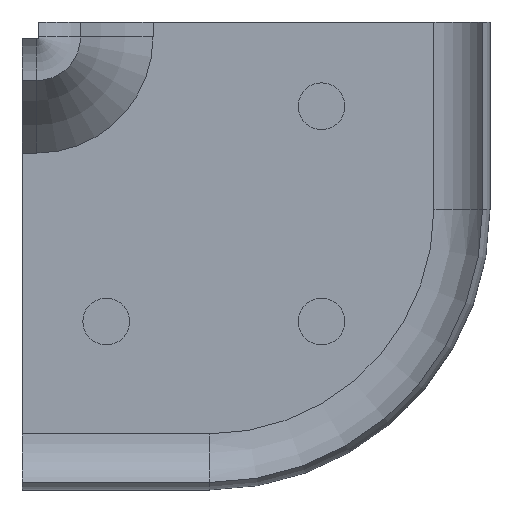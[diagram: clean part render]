
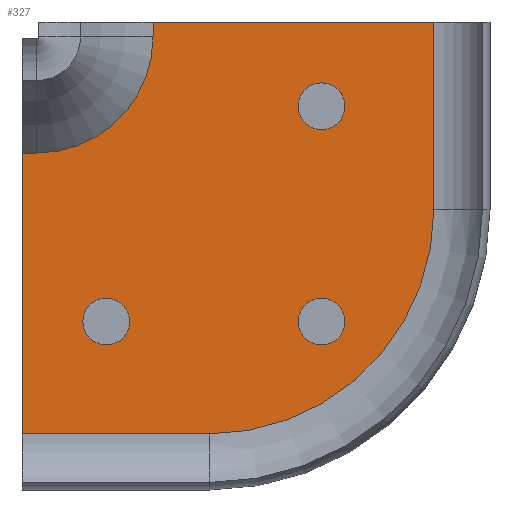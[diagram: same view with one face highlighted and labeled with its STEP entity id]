
A CAD part, front view. The second image highlights one B-rep face of the part: STEP entity #327.
In plain terms, the highlighted planar face has unit normal (0, -1, 0).
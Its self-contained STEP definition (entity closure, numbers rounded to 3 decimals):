
#11 = CARTESIAN_POINT ( 'NONE',  ( -15., 0., -22. ) ) ;
#18 = CIRCLE ( 'NONE', #771, 6.2 ) ;
#65 = CARTESIAN_POINT ( 'NONE',  ( -3., 0., -10. ) ) ;
#73 = VERTEX_POINT ( 'NONE', #436 ) ;
#88 = CARTESIAN_POINT ( 'NONE',  ( -3., 0., 0. ) ) ;
#105 = EDGE_CURVE ( 'NONE', #850, #810, #422, .T. ) ;
#117 = ORIENTED_EDGE ( 'NONE', *, *, #655, .F. ) ;
#122 = EDGE_CURVE ( 'NONE', #268, #520, #324, .T. ) ;
#123 = CARTESIAN_POINT ( 'NONE',  ( -25., 0., -7. ) ) ;
#124 = EDGE_LOOP ( 'NONE', ( #402 ) ) ;
#129 = AXIS2_PLACEMENT_3D ( 'NONE', #583, #982, #184 ) ;
#137 = AXIS2_PLACEMENT_3D ( 'NONE', #546, #933, #848 ) ;
#138 = DIRECTION ( 'NONE',  ( 0., 0., 1. ) ) ;
#153 = EDGE_CURVE ( 'NONE', #843, #843, #1152, .T. ) ;
#156 = CARTESIAN_POINT ( 'NONE',  ( -24.2, 0., -0.8 ) ) ;
#161 = EDGE_CURVE ( 'NONE', #73, #285, #18, .T. ) ;
#168 = DIRECTION ( 'NONE',  ( 0., 0., 1. ) ) ;
#173 = CARTESIAN_POINT ( 'NONE',  ( -7.75, 0., -4.5 ) ) ;
#184 = DIRECTION ( 'NONE',  ( 1., 0., 0. ) ) ;
#191 = FACE_OUTER_BOUND ( 'NONE', #1061, .T. ) ;
#209 = LINE ( 'NONE', #11, #532 ) ;
#236 = DIRECTION ( 'NONE',  ( 0., 0., 1. ) ) ;
#268 = VERTEX_POINT ( 'NONE', #65 ) ;
#281 = EDGE_CURVE ( 'NONE', #285, #810, #1148, .T. ) ;
#285 = VERTEX_POINT ( 'NONE', #650 ) ;
#288 = PLANE ( 'NONE',  #1167 ) ;
#304 = VECTOR ( 'NONE', #949, 1000. ) ;
#324 = LINE ( 'NONE', #615, #390 ) ;
#327 = ADVANCED_FACE ( 'NONE', ( #599, #191, #485, #973 ), #288, .T. ) ;
#332 = ORIENTED_EDGE ( 'NONE', *, *, #161, .T. ) ;
#340 = CARTESIAN_POINT ( 'NONE',  ( -3., 0., 0. ) ) ;
#373 = VERTEX_POINT ( 'NONE', #869 ) ;
#374 = VERTEX_POINT ( 'NONE', #886 ) ;
#390 = VECTOR ( 'NONE', #739, 1000. ) ;
#402 = ORIENTED_EDGE ( 'NONE', *, *, #538, .F. ) ;
#422 = LINE ( 'NONE', #805, #935 ) ;
#423 = CIRCLE ( 'NONE', #129, 1.25 ) ;
#436 = CARTESIAN_POINT ( 'NONE',  ( -18., 0., -0.8 ) ) ;
#459 = CARTESIAN_POINT ( 'NONE',  ( -24.2, 0., -7. ) ) ;
#485 = FACE_BOUND ( 'NONE', #124, .T. ) ;
#496 = DIRECTION ( 'NONE',  ( 1., 0., 0. ) ) ;
#520 = VERTEX_POINT ( 'NONE', #340 ) ;
#532 = VECTOR ( 'NONE', #767, 1000. ) ;
#533 = CARTESIAN_POINT ( 'NONE',  ( -18., 0., 0. ) ) ;
#538 = EDGE_CURVE ( 'NONE', #1034, #1034, #1071, .T. ) ;
#546 = CARTESIAN_POINT ( 'NONE',  ( -20.5, 0., -16. ) ) ;
#548 = ORIENTED_EDGE ( 'NONE', *, *, #122, .T. ) ;
#562 = EDGE_CURVE ( 'NONE', #374, #850, #209, .T. ) ;
#580 = CIRCLE ( 'NONE', #1085, 12. ) ;
#583 = CARTESIAN_POINT ( 'NONE',  ( -9., 0., -16. ) ) ;
#586 = DIRECTION ( 'NONE',  ( 0., -1., 0. ) ) ;
#587 = AXIS2_PLACEMENT_3D ( 'NONE', #1211, #878, #496 ) ;
#599 = FACE_BOUND ( 'NONE', #992, .T. ) ;
#606 = ORIENTED_EDGE ( 'NONE', *, *, #153, .F. ) ;
#615 = CARTESIAN_POINT ( 'NONE',  ( -3., 0., -10. ) ) ;
#636 = ORIENTED_EDGE ( 'NONE', *, *, #281, .T. ) ;
#650 = CARTESIAN_POINT ( 'NONE',  ( -24.2, 0., -7. ) ) ;
#655 = EDGE_CURVE ( 'NONE', #373, #373, #423, .T. ) ;
#690 = VECTOR ( 'NONE', #1250, 1000. ) ;
#694 = EDGE_CURVE ( 'NONE', #73, #764, #1006, .T. ) ;
#739 = DIRECTION ( 'NONE',  ( 0., 0., 1. ) ) ;
#746 = EDGE_CURVE ( 'NONE', #268, #374, #580, .T. ) ;
#759 = LINE ( 'NONE', #88, #690 ) ;
#761 = CARTESIAN_POINT ( 'NONE',  ( -25., 0., -22. ) ) ;
#764 = VERTEX_POINT ( 'NONE', #533 ) ;
#767 = DIRECTION ( 'NONE',  ( -1., 0., 0. ) ) ;
#771 = AXIS2_PLACEMENT_3D ( 'NONE', #156, #1044, #168 ) ;
#775 = DIRECTION ( 'NONE',  ( 1., 0., 0. ) ) ;
#805 = CARTESIAN_POINT ( 'NONE',  ( -25., 0., -22. ) ) ;
#810 = VERTEX_POINT ( 'NONE', #123 ) ;
#843 = VERTEX_POINT ( 'NONE', #950 ) ;
#848 = DIRECTION ( 'NONE',  ( 1., 0., 0. ) ) ;
#850 = VERTEX_POINT ( 'NONE', #761 ) ;
#869 = CARTESIAN_POINT ( 'NONE',  ( -7.75, 0., -16. ) ) ;
#870 = ORIENTED_EDGE ( 'NONE', *, *, #105, .F. ) ;
#878 = DIRECTION ( 'NONE',  ( 0., -1., 0. ) ) ;
#886 = CARTESIAN_POINT ( 'NONE',  ( -15., 0., -22. ) ) ;
#899 = CARTESIAN_POINT ( 'NONE',  ( -15., 0., -10. ) ) ;
#909 = DIRECTION ( 'NONE',  ( 0., 0., 1. ) ) ;
#933 = DIRECTION ( 'NONE',  ( 0., -1., 0. ) ) ;
#935 = VECTOR ( 'NONE', #909, 1000. ) ;
#946 = ORIENTED_EDGE ( 'NONE', *, *, #1248, .F. ) ;
#949 = DIRECTION ( 'NONE',  ( -1., 0., 0. ) ) ;
#950 = CARTESIAN_POINT ( 'NONE',  ( -19.25, 0., -16. ) ) ;
#973 = FACE_BOUND ( 'NONE', #1204, .T. ) ;
#976 = ORIENTED_EDGE ( 'NONE', *, *, #562, .F. ) ;
#982 = DIRECTION ( 'NONE',  ( 0., -1., 0. ) ) ;
#992 = EDGE_LOOP ( 'NONE', ( #606 ) ) ;
#1006 = LINE ( 'NONE', #1183, #1067 ) ;
#1023 = ORIENTED_EDGE ( 'NONE', *, *, #746, .F. ) ;
#1034 = VERTEX_POINT ( 'NONE', #173 ) ;
#1044 = DIRECTION ( 'NONE',  ( 0., 1., 0. ) ) ;
#1061 = EDGE_LOOP ( 'NONE', ( #1023, #548, #946, #1088, #332, #636, #870, #976 ) ) ;
#1067 = VECTOR ( 'NONE', #138, 1000. ) ;
#1071 = CIRCLE ( 'NONE', #587, 1.25 ) ;
#1085 = AXIS2_PLACEMENT_3D ( 'NONE', #899, #1176, #236 ) ;
#1088 = ORIENTED_EDGE ( 'NONE', *, *, #694, .F. ) ;
#1148 = LINE ( 'NONE', #459, #304 ) ;
#1152 = CIRCLE ( 'NONE', #137, 1.25 ) ;
#1167 = AXIS2_PLACEMENT_3D ( 'NONE', #1255, #586, #775 ) ;
#1176 = DIRECTION ( 'NONE',  ( 0., 1., 0. ) ) ;
#1183 = CARTESIAN_POINT ( 'NONE',  ( -18., 0., -0.8 ) ) ;
#1204 = EDGE_LOOP ( 'NONE', ( #117 ) ) ;
#1211 = CARTESIAN_POINT ( 'NONE',  ( -9., 0., -4.5 ) ) ;
#1248 = EDGE_CURVE ( 'NONE', #764, #520, #759, .T. ) ;
#1250 = DIRECTION ( 'NONE',  ( 1., 0., 0. ) ) ;
#1255 = CARTESIAN_POINT ( 'NONE',  ( -16., 0., -0.8 ) ) ;
